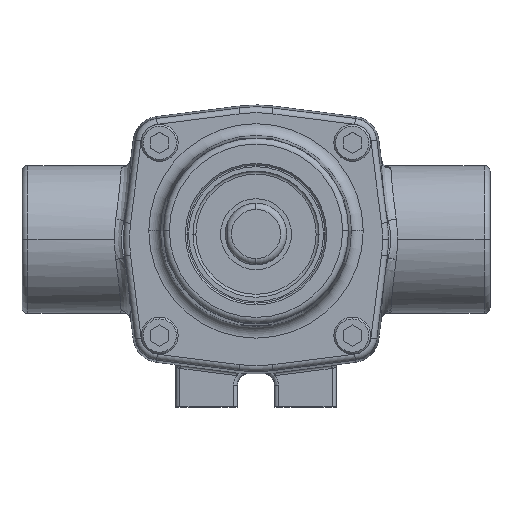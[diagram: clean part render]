
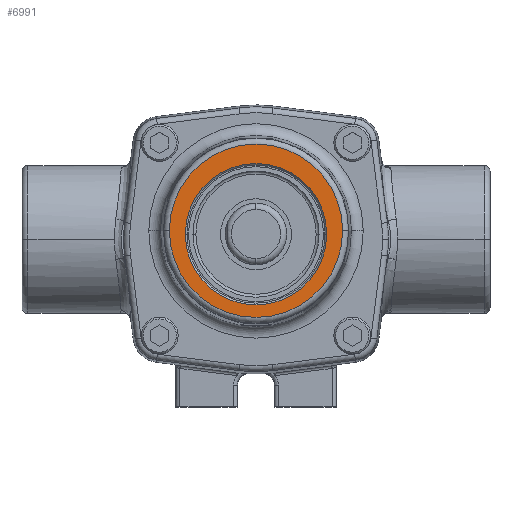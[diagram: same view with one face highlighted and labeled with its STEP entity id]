
A CAD part, top view. The second image highlights one B-rep face of the part: STEP entity #6991.
In plain terms, the highlighted planar face has unit normal (0, 0, 1).
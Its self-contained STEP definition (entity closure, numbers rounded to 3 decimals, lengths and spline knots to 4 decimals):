
#710 = FACE_BOUND ( 'NONE', #24572, .T. ) ;
#718 = FACE_OUTER_BOUND ( 'NONE', #24874, .T. ) ;
#1417 = CARTESIAN_POINT ( 'NONE',  ( 0., 0.085, 3.9675 ) ) ;
#1419 = DIRECTION ( 'NONE',  ( 0., 0., 1. ) ) ;
#1421 = DIRECTION ( 'NONE',  ( 1., 0., 0. ) ) ;
#6440 = CARTESIAN_POINT ( 'NONE',  ( 0.8796, 0.085, 3.9675 ) ) ;
#6991 = ADVANCED_FACE ( 'NONE', ( #710, #718 ), #42085, .T. ) ;
#9566 = VERTEX_POINT ( 'NONE', #18951 ) ;
#9568 = VERTEX_POINT ( 'NONE', #18949 ) ;
#9956 = VERTEX_POINT ( 'NONE', #18307 ) ;
#11863 = CARTESIAN_POINT ( 'NONE',  ( 0., 0.05, 3.9675 ) ) ;
#11866 = DIRECTION ( 'NONE',  ( 0., 0., -1. ) ) ;
#11868 = DIRECTION ( 'NONE',  ( 1., 0., 0. ) ) ;
#15914 = AXIS2_PLACEMENT_3D ( 'NONE', #41248, #41244, #41242 ) ;
#16667 = AXIS2_PLACEMENT_3D ( 'NONE', #1417, #1419, #1421 ) ;
#16762 = AXIS2_PLACEMENT_3D ( 'NONE', #48258, #48260, #48262 ) ;
#18307 = CARTESIAN_POINT ( 'NONE',  ( -0.8796, 0.085, 3.9675 ) ) ;
#18949 = CARTESIAN_POINT ( 'NONE',  ( 0.7175, 0.05, 3.9675 ) ) ;
#18951 = CARTESIAN_POINT ( 'NONE',  ( -0.7175, 0.05, 3.9675 ) ) ;
#20243 = ORIENTED_EDGE ( 'NONE', *, *, #28482, .T. ) ;
#20245 = ORIENTED_EDGE ( 'NONE', *, *, #37323, .T. ) ;
#20247 = ORIENTED_EDGE ( 'NONE', *, *, #42491, .T. ) ;
#20249 = ORIENTED_EDGE ( 'NONE', *, *, #37801, .T. ) ;
#21979 = AXIS2_PLACEMENT_3D ( 'NONE', #11863, #11866, #11868 ) ;
#23342 = VERTEX_POINT ( 'NONE', #6440 ) ;
#24572 = EDGE_LOOP ( 'NONE', ( #20249, #20247 ) ) ;
#24874 = EDGE_LOOP ( 'NONE', ( #20245, #20243 ) ) ;
#28482 = EDGE_CURVE ( 'NONE', #9956, #23342, #32183, .T. ) ;
#28639 = AXIS2_PLACEMENT_3D ( 'NONE', #42092, #42081, #42079 ) ;
#32183 = CIRCLE ( 'NONE', #15914, 0.8796 ) ;
#36281 = CIRCLE ( 'NONE', #21979, 0.7175 ) ;
#37323 = EDGE_CURVE ( 'NONE', #23342, #9956, #40047, .T. ) ;
#37801 = EDGE_CURVE ( 'NONE', #9568, #9566, #40240, .T. ) ;
#40047 = CIRCLE ( 'NONE', #16667, 0.8796 ) ;
#40240 = CIRCLE ( 'NONE', #16762, 0.7175 ) ;
#41242 = DIRECTION ( 'NONE',  ( 1., 0., 0. ) ) ;
#41244 = DIRECTION ( 'NONE',  ( 0., 0., 1. ) ) ;
#41248 = CARTESIAN_POINT ( 'NONE',  ( 0., 0.085, 3.9675 ) ) ;
#42079 = DIRECTION ( 'NONE',  ( 1., 0., 0. ) ) ;
#42081 = DIRECTION ( 'NONE',  ( 0., 0., 1. ) ) ;
#42085 = PLANE ( 'NONE',  #28639 ) ;
#42092 = CARTESIAN_POINT ( 'NONE',  ( 0., 0.085, 3.9675 ) ) ;
#42491 = EDGE_CURVE ( 'NONE', #9566, #9568, #36281, .T. ) ;
#48258 = CARTESIAN_POINT ( 'NONE',  ( 0., 0.05, 3.9675 ) ) ;
#48260 = DIRECTION ( 'NONE',  ( 0., 0., -1. ) ) ;
#48262 = DIRECTION ( 'NONE',  ( 1., 0., 0. ) ) ;
